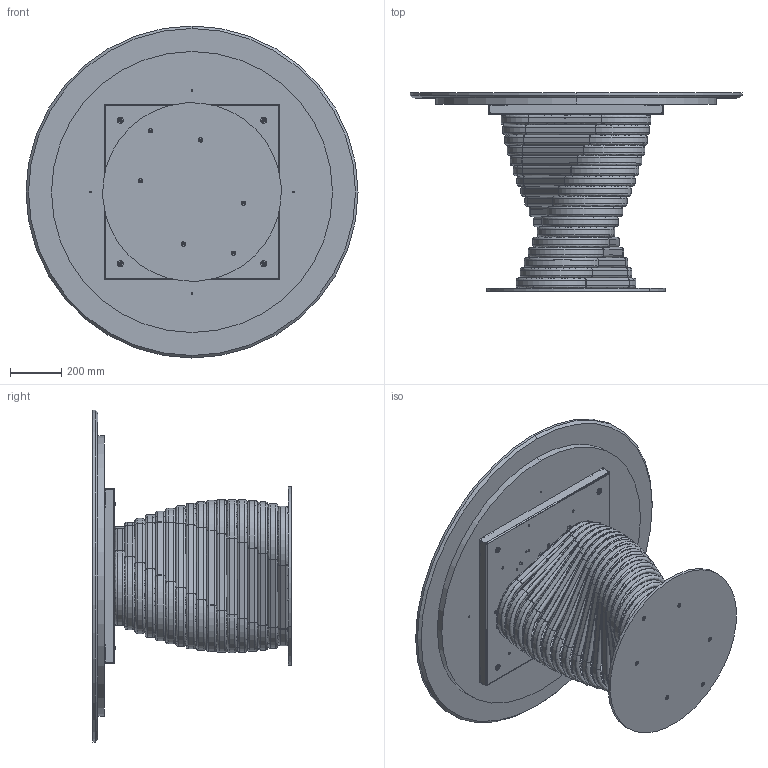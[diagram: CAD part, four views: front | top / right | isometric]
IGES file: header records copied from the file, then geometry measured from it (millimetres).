
Start section: SolidWorks IGES file using analytic representation for surfaces
Global section: file name: Y:\eforma\TECNICO\SOLIDWORKS\E-FORMA\1-TAVOLI\ROTOLO\02 parts\RO05M.IGS; native system: SolidWorks 2022; preprocessor: SolidWorks 2022; author: eforma.tech; date: 240807.151052; units: millimetre
Bounding box: 1300 x 777 x 1300 mm (x, y, z)
Volume: 61908163.8 mm3; surface area: 11585883.5 mm2
Topology: 98 solids, 98 shells, 1802 faces, 4390 edges, 2755 vertices
Faces by surface type: revolution 1058, plane 744
